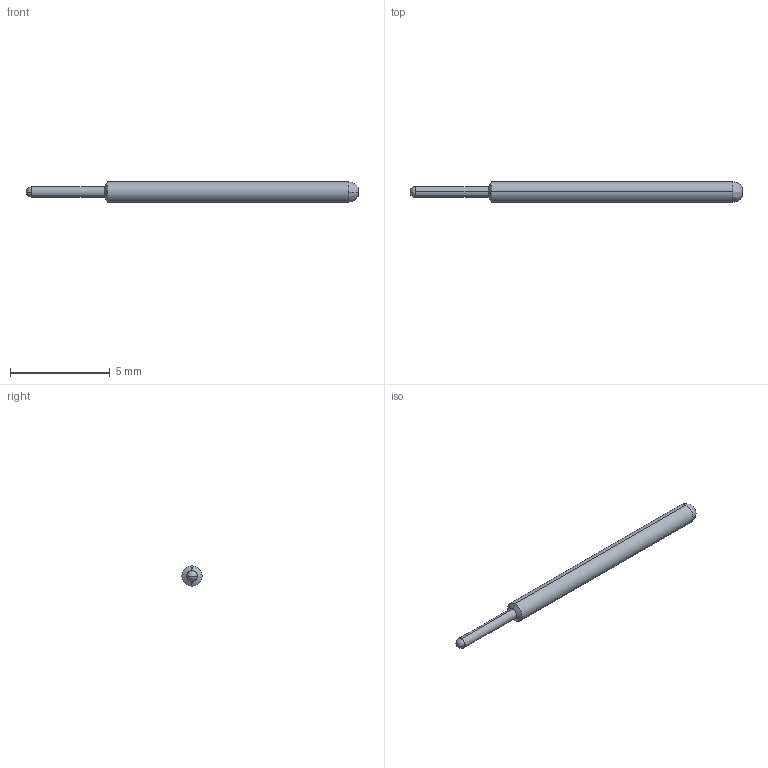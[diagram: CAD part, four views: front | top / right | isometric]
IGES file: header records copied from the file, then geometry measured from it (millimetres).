
Start section: SolidWorks IGES file using analytic representation for surfaces
Global section: file name: F:\OneDrive\Desktop\Coda\24.8\PA2 series RTP\CAD Files\PA2J.IGS; native system: SolidWorks 2021; preprocessor: SolidWorks 2021; author: Georg; date: 210825.124139; units: inch
Bounding box: 16.64 x 1.02 x 1.02 mm (x, y, z)
Surface area: 47.6 mm2 (no closed solid volume)
Topology: 0 solids, 0 shells, 11 faces, 64 edges, 62 vertices
Faces by surface type: revolution 6, bspline 5
